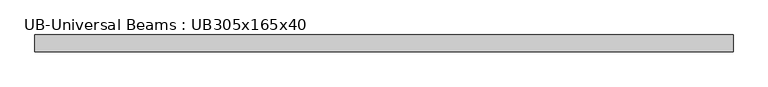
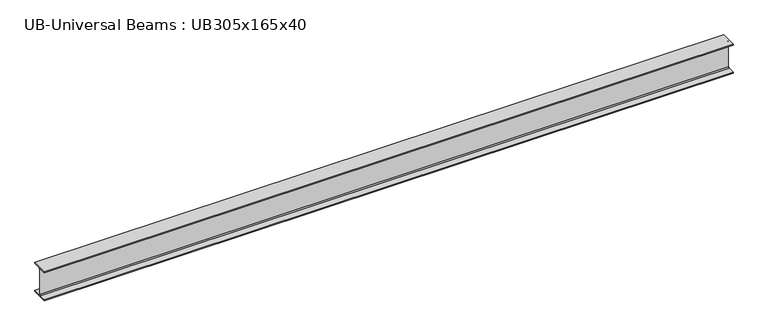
"""IFC4 building model written with IfcOpenShell, lengths in millimetres: beam geometry, UB-Universal Beams : UB305x165x40."""

from ifc_helpers import new_model, si_unit, point, frame, frame_2d, origin, place, context, project, spatial, polyline, circle_curve, trimmed, segment, composite_curve, outline, extrude, source, transform, mapped, element, save


def ub_universal_beams_ub305x165x40_6963316a(model_context):
    return source(origin(), model_context, "Body", "SweptSolid", [
        extrude(outline(composite_curve([segment(polyline([(82.5, -141.5), (82.5, -151.7), (-82.5, -151.7), (-82.5, -141.5), (-11.9, -141.5)]), True, "CONTINUOUS"), segment(trimmed(circle_curve(frame_2d((-11.9, -132.6)), 8.9), [point((-11.9, -141.5))], [point((-3.0, -132.6))], True, "CARTESIAN"), True, "CONTINUOUS"), segment(polyline([(-3.0, -132.6), (-3.0, 132.6)]), True, "CONTINUOUS"), segment(trimmed(circle_curve(frame_2d((-11.9, 132.6)), 8.9), [point((-3.0, 132.6))], [point((-11.9, 141.5))], True, "CARTESIAN"), True, "CONTINUOUS"), segment(polyline([(-11.9, 141.5), (-82.5, 141.5), (-82.5, 151.7), (82.5, 151.7), (82.5, 141.5), (11.9, 141.5)]), True, "CONTINUOUS"), segment(trimmed(circle_curve(frame_2d((11.9, 132.6)), 8.9), [point((11.9, 141.5))], [point((3.0, 132.6))], True, "CARTESIAN"), True, "CONTINUOUS"), segment(polyline([(3.0, 132.6), (3.0, -132.6)]), True, "CONTINUOUS"), segment(trimmed(circle_curve(frame_2d((11.9, -132.6)), 8.9), [point((3.0, -132.6))], [point((11.9, -141.5))], True, "CARTESIAN"), True, "CONTINUOUS"), segment(polyline([(11.9, -141.5), (82.5, -141.5)]), True, "CONTINUOUS")], self_intersect=False)), frame((-3440.6, 0.0, 0.0), z_axis=(1.0, 0.0, 0.0), x_axis=(0.0, 1.0, 0.0)), (0.0, 0.0, 1.0), 6873.4),
    ])


if __name__ == "__main__":
    model = new_model("IFC4")
    model_context = context("Model", 3, world=origin())
    ifc_project = project(units=[si_unit("LENGTHUNIT", "METRE", prefix="MILLI")], contexts=[model_context])
    site = spatial("IfcSite", under=ifc_project)
    building = spatial("IfcBuilding", under=site)
    placement = place(None, origin())
    ub_universal_beams_ub305x165x40_shape = ub_universal_beams_ub305x165x40_6963316a(model_context)
    element("IfcBeam", 1, ObjectType="UB-Universal Beams : UB305x165x40", at=placement, inside=building, context=model_context, shape_type="MappedRepresentation", body=[
        mapped(ub_universal_beams_ub305x165x40_shape, transform((0.0, 0.0, 0.0), x_axis=(1.0, 0.0, 0.0), y_axis=(0.0, 1.0, 0.0), z_axis=(0.0, 0.0, 1.0))),
    ])
    save(model, "model.ifc")
